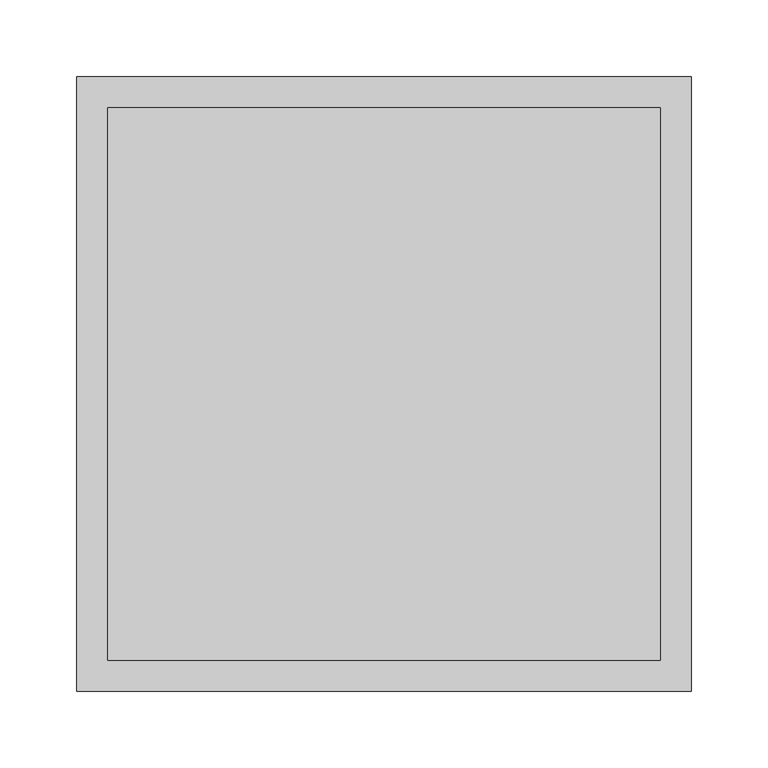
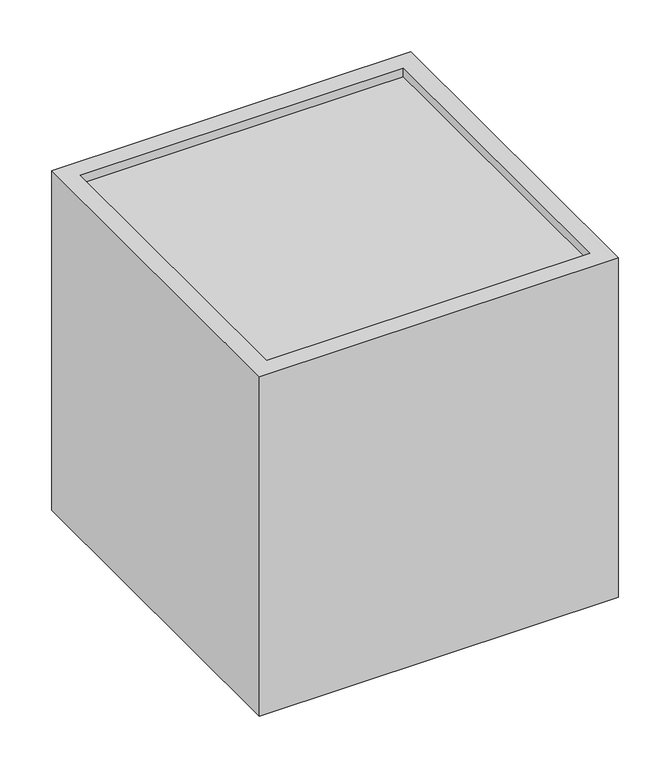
"""IFC4 building model written with IfcOpenShell, lengths in millimetres: flow terminal geometry, Einlaufschacht : Strassenablauf (Einlaufschacht)."""

import ifcopenshell
import ifcopenshell.guid

model = None  # the IFC model being written
_history = None  # IfcOwnerHistory: only IFC2X3 demands one
_inside = {}  # id of a spatial element -> (the spatial element, [elements in it])
_under = {}  # id of a project, library or spatial element -> (it, [spatial elements below it])
_declared = {}  # id of a project -> (the project, [libraries it declares])
_typed = {}  # id of a type object -> (the type object, [elements of that type])
_made_of = {}  # id of a material, layer set ... -> (it, [elements and type objects made of it])


def new_model(schema):
    """Start an empty IFC model of exactly this schema.

    Asked for "IFC4X3", IfcOpenShell would pick the latest addendum, in which some entities
    have other attributes; the version numbers below select the first issue.
    IFC2X3 requires an IfcOwnerHistory on every rooted entity: one is made here for all.
    """
    global model, _history
    if schema == "IFC4X3":
        model = ifcopenshell.file(schema_version=(4, 3, 0, 0))
    else:
        model = ifcopenshell.file(schema=schema)
    _inside.clear()
    _under.clear()
    _declared.clear()
    _typed.clear()
    _made_of.clear()
    _history = None
    if model.schema == "IFC2X3":
        org = make("IfcOrganization", Name="unknown")
        user = make(
            "IfcPersonAndOrganization",
            ThePerson=make("IfcPerson", FamilyName="unknown"),
            TheOrganization=org,
        )
        app = make(
            "IfcApplication",
            ApplicationDeveloper=org,
            Version="unknown",
            ApplicationFullName="unknown",
            ApplicationIdentifier="unknown",
        )
        _history = make(
            "IfcOwnerHistory",
            OwningUser=user,
            OwningApplication=app,
            ChangeAction="ADDED",
            CreationDate=0,
        )
    return model


def make(cls, **values):
    """One entity of the class cls with the attributes given. An attribute that is None is left unset."""
    return model.create_entity(
        cls, **{name: value for name, value in values.items() if value is not None}
    )


def rooted(cls, **values):
    """An entity with a GlobalId (a new one), such as an element, a storey or a relation."""
    return make(cls, GlobalId=ifcopenshell.guid.new(), OwnerHistory=_history, **values)


def si_unit(unit_type, name, prefix=None):
    """IfcSIUnit, for example si_unit("LENGTHUNIT", "METRE", prefix="MILLI")."""
    return make("IfcSIUnit", UnitType=unit_type, Prefix=prefix, Name=name)


def assignment(units):
    """IfcUnitAssignment: the units of a project."""
    return None if units is None else make("IfcUnitAssignment", Units=units)


def point(xyz):
    """IfcCartesianPoint."""
    return None if xyz is None else make("IfcCartesianPoint", Coordinates=xyz)


def direction(xyz):
    """IfcDirection."""
    return None if xyz is None else make("IfcDirection", DirectionRatios=xyz)


def frame(location, z_axis=None, x_axis=None):
    """IfcAxis2Placement3D, a coordinate frame: its origin and axes. An axis left out is left unset."""
    return make(
        "IfcAxis2Placement3D",
        Location=point(location),
        Axis=direction(z_axis),
        RefDirection=direction(x_axis),
    )


def origin():
    """The frame at (0, 0, 0) with its axes left unset."""
    return frame((0.0, 0.0, 0.0))


def place(relative_to, where):
    """IfcLocalPlacement: puts the frame where relative to a parent placement (None: the world)."""
    return make(
        "IfcLocalPlacement", PlacementRelTo=relative_to, RelativePlacement=where
    )


def context(
    kind, dimensions, precision=None, world=None, true_north=None, identifier=None
):
    """IfcGeometricRepresentationContext, for example the 3D "Model" context."""
    return make(
        "IfcGeometricRepresentationContext",
        ContextIdentifier=identifier,
        ContextType=kind,
        CoordinateSpaceDimension=dimensions,
        Precision=precision,
        WorldCoordinateSystem=world,
        TrueNorth=true_north,
    )


def project(units=None, contexts=None):
    """IfcProject with its units and contexts."""
    return rooted(
        "IfcProject",
        Name="project",
        RepresentationContexts=contexts,
        UnitsInContext=assignment(units),
    )


def spatial(cls, under=None, at=None, **own):
    """A site, building, storey or space (cls), placed at a placement, below another one or the project."""
    s = rooted(cls, ObjectPlacement=at, **own)
    if under is not None:
        _under.setdefault(under.id(), (under, []))[1].append(s)
    return s


def polyline(points):
    """IfcPolyline through the points."""
    return make("IfcPolyline", Points=[point(p) for p in points])


def circle_curve(where, radius):
    """IfcCircle in the frame where."""
    return make("IfcCircle", Position=where, Radius=radius)


def outline(outer, holes=None, kind="AREA"):
    """IfcArbitraryClosedProfileDef: a profile drawn as a closed curve; with holes, ...WithVoids."""
    if holes is None:
        return make("IfcArbitraryClosedProfileDef", ProfileType=kind, OuterCurve=outer)
    return make(
        "IfcArbitraryProfileDefWithVoids",
        ProfileType=kind,
        OuterCurve=outer,
        InnerCurves=holes,
    )


def extrude(swept, where, along, depth):
    """IfcExtrudedAreaSolid: the profile swept, set in the frame where, extruded along a direction by depth."""
    return make(
        "IfcExtrudedAreaSolid",
        SweptArea=swept,
        Position=where,
        ExtrudedDirection=direction(along),
        Depth=depth,
    )


def shape(context_of_items, identifier, shape_type, items):
    """IfcShapeRepresentation: the items that make up one representation, for example the "Body"."""
    return make(
        "IfcShapeRepresentation",
        ContextOfItems=context_of_items,
        RepresentationIdentifier=identifier,
        RepresentationType=shape_type,
        Items=items,
    )


def source(mapping_origin, context_of_items, identifier, shape_type, items):
    """IfcRepresentationMap: a shape defined once, which mapped items show again and again."""
    return make(
        "IfcRepresentationMap",
        MappingOrigin=mapping_origin,
        MappedRepresentation=shape(context_of_items, identifier, shape_type, items),
    )


def transform(
    local_origin,
    x_axis=None,
    y_axis=None,
    z_axis=None,
    scale=None,
    scale2=None,
    scale3=None,
    uniform=True,
):
    """IfcCartesianTransformationOperator3D, or its non-uniform kind. x_axis, y_axis, z_axis: its Axis1, 2, 3."""
    if uniform:
        return make(
            "IfcCartesianTransformationOperator3D",
            Axis1=direction(x_axis),
            Axis2=direction(y_axis),
            LocalOrigin=point(local_origin),
            Scale=scale,
            Axis3=direction(z_axis),
        )
    return make(
        "IfcCartesianTransformationOperator3DnonUniform",
        Axis1=direction(x_axis),
        Axis2=direction(y_axis),
        LocalOrigin=point(local_origin),
        Scale=scale,
        Axis3=direction(z_axis),
        Scale2=scale2,
        Scale3=scale3,
    )


def mapped(mapping_source, mapping_target):
    """IfcMappedItem: shows the shape of a source again, moved by a transform."""
    return make(
        "IfcMappedItem", MappingSource=mapping_source, MappingTarget=mapping_target
    )


def made_of(thing, what):
    """Note that an element or type object is made of a material, layer set ...; save() writes the relation."""
    if what is not None:
        _made_of.setdefault(what.id(), (what, []))[1].append(thing)
    return thing


def element(
    cls,
    number,
    at=None,
    inside=None,
    cuts=None,
    type_object=None,
    material=None,
    context=None,
    identifier="Body",
    shape_type=None,
    held_by="IfcProductDefinitionShape",
    body=None,
    shapes=None,
    **own,
):
    """One element of the class cls, such as IfcWall. Its Tag is "e" and its number.

    at: its placement. inside: the storey or other place that contains it. cuts: it is an
    opening in that element (IfcRelVoidsElement). A single representation is given by context,
    identifier, shape_type and body (its items); several are given by shapes. held_by: the class
    of the entity that holds the representations. save() writes the other relations.
    """
    e = rooted(cls, Tag="e%d" % number, ObjectPlacement=at, **own)
    if body is not None:
        shapes = [shape(context, identifier, shape_type, body)]
    if shapes is not None:
        e.Representation = make(held_by, Representations=shapes)
    if inside is not None:
        _inside.setdefault(inside.id(), (inside, []))[1].append(e)
    if cuts is not None:
        rooted(
            "IfcRelVoidsElement", RelatingBuildingElement=cuts, RelatedOpeningElement=e
        )
    if type_object is not None:
        _typed.setdefault(type_object.id(), (type_object, []))[1].append(e)
    return made_of(e, material)


def aggregate(whole, parts):
    """IfcRelAggregates: a whole, such as a stair, and the parts it consists of."""
    return rooted("IfcRelAggregates", RelatingObject=whole, RelatedObjects=parts)


def save(model, path):
    """Write the relations noted so far, then the file.

    IfcRelAggregates (storeys below a building ...), IfcRelContainedInSpatialStructure (elements
    in a storey), IfcRelDefinesByType, IfcRelAssociatesMaterial and IfcRelDeclares: one each for
    every whole, place, type object, material and project.
    """
    for whole, parts in _under.values():
        aggregate(whole, parts)
    for where, things in _inside.values():
        rooted(
            "IfcRelContainedInSpatialStructure",
            RelatedElements=things,
            RelatingStructure=where,
        )
    for kind, things in _typed.values():
        rooted("IfcRelDefinesByType", RelatedObjects=things, RelatingType=kind)
    for what, things in _made_of.values():
        rooted("IfcRelAssociatesMaterial", RelatedObjects=things, RelatingMaterial=what)
    for by, libraries in _declared.values():
        rooted("IfcRelDeclares", RelatingContext=by, RelatedDefinitions=libraries)
    model.write(path)


def plane_surface(at):
    """IfcPlane: the flat surface through the origin of the frame at, square to its z axis."""
    return make("IfcPlane", Position=at)


def revolved_surface(curve, axis_point, axis_direction):
    """IfcSurfaceOfRevolution: the curve turned about the line through axis_point along axis_direction."""
    return make(
        "IfcSurfaceOfRevolution",
        SweptCurve=make("IfcArbitraryOpenProfileDef", ProfileType="CURVE", Curve=curve),
        AxisPosition=make("IfcAxis1Placement", Location=point(axis_point), Axis=direction(axis_direction)),
    )


def advanced_brep(points, edges, surfaces, faces):
    """IfcAdvancedBrep: a solid bounded by faces that lie on surfaces and meet in shared edges.

    An edge is (start, end): straight between two places in points (the first is 0);
    or (start, end, curve); or (start, end, curve, False) where it runs against its curve.
    A face is (place in surfaces, loops), or (place, loops, False) where it looks against
    its surface's normal. A loop lists edges by number (the first is 1), with a minus sign
    where the edge is run from its end to its start. The first loop is the outer one.
    """
    corners = [point(p) for p in points]
    vertices = [make("IfcVertexPoint", VertexGeometry=c) for c in corners]
    made = []
    for start, end, *more in edges:
        made.append(
            make(
                "IfcEdgeCurve",
                EdgeStart=vertices[start],
                EdgeEnd=vertices[end],
                EdgeGeometry=more[0] if more else make("IfcPolyline", Points=[corners[start], corners[end]]),
                SameSense=more[1] if len(more) > 1 else True,
            )
        )
    hull = []
    for where, loops, *sense in faces:
        bounds = []
        for j, loop in enumerate(loops):
            ring = [make("IfcOrientedEdge", EdgeElement=made[abs(k) - 1], Orientation=k > 0) for k in loop]
            bounds.append(
                make(
                    "IfcFaceOuterBound" if j == 0 else "IfcFaceBound",
                    Bound=make("IfcEdgeLoop", EdgeList=ring),
                    Orientation=True,
                )
            )
        hull.append(make("IfcAdvancedFace", Bounds=bounds, FaceSurface=surfaces[where], SameSense=sense[0] if sense else True))
    return make("IfcAdvancedBrep", Outer=make("IfcClosedShell", CfsFaces=hull))


def flow_terminal_a3e2234b(model_context):
    return source(origin(), model_context, "Body", "SolidModel", [
        advanced_brep(
        [(200.0, -200.0, -400.0), (-200.0, -200.0, -400.0), (-200.0, 200.0, -400.0), (200.0, 200.0, -400.0), (180.0, -180.0, -400.0), (180.0, 180.0, -400.0), (-180.0, 180.0, -400.0), (-180.0, -180.0, -400.0), (200.0, -200.0, 0.0), (200.0, 200.0, 0.0), (-200.0, 200.0, 0.0), (-200.0, -200.0, 0.0), (180.0, -180.0, 0.0), (-180.0, -180.0, 0.0), (-180.0, 180.0, 0.0), (180.0, 180.0, 0.0), (-50.0, 200.0, -290.0), (50.0, 200.0, -290.0), (50.0, 180.0, -290.0), (-50.0, 180.0, -290.0)],
        [
            (0, 1),
            (1, 2),
            (2, 3),
            (3, 0),
            (4, 5),
            (5, 6),
            (6, 7),
            (7, 4),
            (8, 9),
            (9, 10),
            (10, 11),
            (11, 8),
            (12, 13),
            (13, 14),
            (14, 15),
            (15, 12),
            (0, 8),
            (11, 1),
            (10, 2),
            (9, 3),
            (16, 17, circle_curve(frame((0.0, 200.0, -290.0), z_axis=(0.0, -1.0, 0.0), x_axis=(1.0, 0.0, 0.0)), 50.0)),
            (17, 16, circle_curve(frame((0.0, 200.0, -290.0), z_axis=(0.0, -1.0, 0.0), x_axis=(1.0, 0.0, 0.0)), 50.0)),
            (4, 12),
            (15, 5),
            (14, 6),
            (18, 19, circle_curve(frame((0.0, 180.0, -290.0), z_axis=(0.0, 1.0, 0.0), x_axis=(1.0, 0.0, 0.0)), 50.0)),
            (19, 18, circle_curve(frame((0.0, 180.0, -290.0), z_axis=(0.0, 1.0, 0.0), x_axis=(1.0, 0.0, 0.0)), 50.0)),
            (13, 7),
            (17, 18),
            (19, 16),
        ],
        [
            plane_surface(frame((-200.0, -200.0, -400.0), z_axis=(0.0, 0.0, -1.0), x_axis=(1.0, 0.0, 0.0))),
            plane_surface(frame((-200.0, -200.0, 0.0), z_axis=(0.0, 0.0, 1.0), x_axis=(-1.0, 0.0, 0.0))),
            plane_surface(frame((200.0, -200.0, 0.0), z_axis=(0.0, -1.0, 0.0), x_axis=(0.0, 0.0, -1.0))),
            plane_surface(frame((-200.0, -200.0, 0.0), z_axis=(-1.0, 0.0, 0.0), x_axis=(0.0, 0.0, -1.0))),
            plane_surface(frame((-200.0, 200.0, 0.0), z_axis=(0.0, 1.0, 0.0), x_axis=(0.0, 0.0, -1.0))),
            plane_surface(frame((200.0, 200.0, 0.0), z_axis=(1.0, 0.0, 0.0), x_axis=(0.0, 0.0, -1.0))),
            plane_surface(frame((180.0, -180.0, 0.0), z_axis=(-1.0, 0.0, 0.0), x_axis=(0.0, 0.0, -1.0))),
            plane_surface(frame((180.0, 180.0, 0.0), z_axis=(0.0, -1.0, 0.0), x_axis=(0.0, 0.0, -1.0))),
            plane_surface(frame((-180.0, 180.0, 0.0), z_axis=(1.0, 0.0, 0.0), x_axis=(0.0, 0.0, -1.0))),
            plane_surface(frame((-180.0, -180.0, 0.0), z_axis=(0.0, 1.0, 0.0), x_axis=(0.0, 0.0, -1.0))),
            revolved_surface(polyline([(50.0, 180.0, -290.0), (50.0, 200.0, -290.0)]), (0.0, 292.2404125, -290.0), (0.0, -1.0, 0.0)),
        ],
        [
            (0, [[1, 2, 3, 4], [5, 6, 7, 8]]),
            (1, [[9, 10, 11, 12], [13, 14, 15, 16]]),
            (2, [[17, -12, 18, -1]]),
            (3, [[-18, -11, 19, -2]]),
            (4, [[-19, -10, 20, -3], [21, 22]]),
            (5, [[-20, -9, -17, -4]]),
            (6, [[23, -16, 24, -5]]),
            (7, [[-24, -15, 25, -6], [26, 27]]),
            (8, [[-25, -14, 28, -7]]),
            (9, [[-28, -13, -23, -8]]),
            (10, [[-22, 29, -27, 30]]),
            (10, [[-26, -29, -21, -30]]),
        ],
    ),
        extrude(outline(polyline([(180.0, -180.0), (-180.0, -180.0), (-180.0, 180.0), (180.0, 180.0), (180.0, -180.0)])), frame((0.0, 0.0, -60.0), z_axis=(0.0, 0.0, 1.0), x_axis=(1.0, 0.0, 0.0)), (0.0, 0.0, 1.0), 50.0),
        extrude(outline(polyline([(180.0, -180.0), (-180.0, -180.0), (-180.0, 180.0), (180.0, 180.0), (180.0, -180.0)])), frame((0.0, 0.0, -400.0), z_axis=(0.0, 0.0, 1.0), x_axis=(1.0, 0.0, 0.0)), (0.0, 0.0, 1.0), 50.0),
    ])


if __name__ == "__main__":
    model = new_model("IFC4")
    model_context = context("Model", 3, world=origin())
    ifc_project = project(units=[si_unit("LENGTHUNIT", "METRE", prefix="MILLI")], contexts=[model_context])
    site = spatial("IfcSite", under=ifc_project)
    building = spatial("IfcBuilding", under=site)
    placement = place(None, origin())
    flow_terminal_shape = flow_terminal_a3e2234b(model_context)
    element("IfcFlowTerminal", 1, ObjectType="Einlaufschacht : Strassenablauf (Einlaufschacht)", at=placement, inside=building, context=model_context, shape_type="MappedRepresentation", body=[
        mapped(flow_terminal_shape, transform((0.0, 0.0, 0.0), x_axis=(1.0, 0.0, 0.0), y_axis=(0.0, 1.0, 0.0), z_axis=(0.0, 0.0, 1.0))),
    ])
    save(model, "model.ifc")
